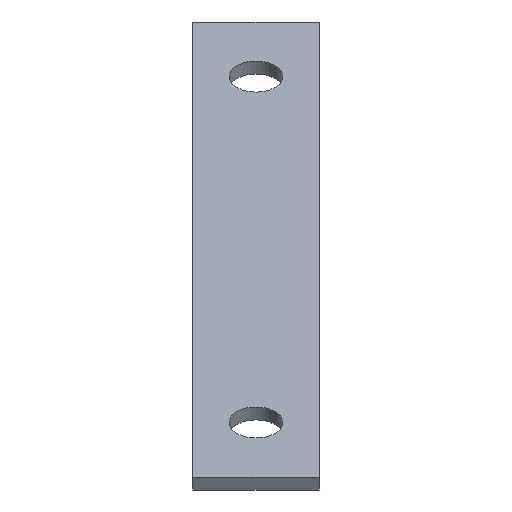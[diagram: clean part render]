
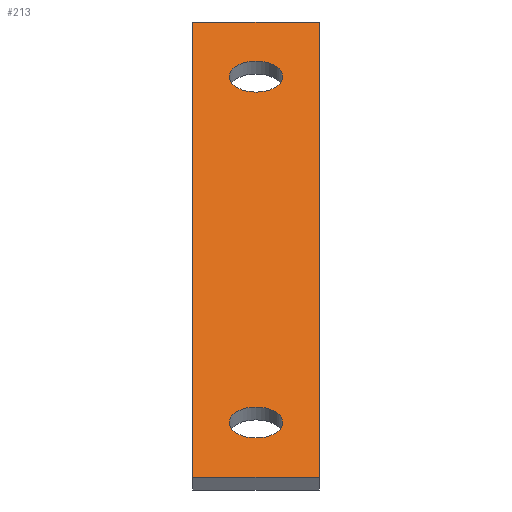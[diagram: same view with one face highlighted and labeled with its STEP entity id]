
A CAD part, isometric view. The second image highlights one B-rep face of the part: STEP entity #213.
In plain terms, the highlighted planar face has unit normal (0, 0, 1).
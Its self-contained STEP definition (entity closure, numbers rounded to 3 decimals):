
#24 = VERTEX_POINT('',#25);
#25 = CARTESIAN_POINT('',(75.151,44.494,201.));
#32 = PLANE('',#33);
#33 = AXIS2_PLACEMENT_3D('',#34,#35,#36);
#34 = CARTESIAN_POINT('',(75.151,44.494,200.));
#35 = DIRECTION('',(0.707,0.707,0.));
#36 = DIRECTION('',(0.,0.,1.));
#44 = PLANE('',#45);
#45 = AXIS2_PLACEMENT_3D('',#46,#47,#48);
#46 = CARTESIAN_POINT('',(75.151,44.494,200.));
#47 = DIRECTION('',(-0.707,0.707,0.));
#48 = DIRECTION('',(0.,0.,1.));
#85 = VERTEX_POINT('',#86);
#86 = CARTESIAN_POINT('',(69.494,50.151,201.));
#100 = PLANE('',#101);
#101 = AXIS2_PLACEMENT_3D('',#102,#103,#104);
#102 = CARTESIAN_POINT('',(69.494,50.151,200.));
#103 = DIRECTION('',(-0.707,0.707,0.));
#104 = DIRECTION('',(0.,0.,1.));
#112 = EDGE_CURVE('',#24,#85,#113,.T.);
#113 = SURFACE_CURVE('',#114,(#118,#125),.PCURVE_S1.);
#114 = LINE('',#115,#116);
#115 = CARTESIAN_POINT('',(75.151,44.494,201.));
#116 = VECTOR('',#117,1.);
#117 = DIRECTION('',(-0.707,0.707,0.));
#118 = PCURVE('',#32,#119);
#119 = DEFINITIONAL_REPRESENTATION('',(#120),#124);
#120 = LINE('',#121,#122);
#121 = CARTESIAN_POINT('',(1.,0.));
#122 = VECTOR('',#123,1.);
#123 = DIRECTION('',(0.,-1.));
#124 = ( GEOMETRIC_REPRESENTATION_CONTEXT(2) 
PARAMETRIC_REPRESENTATION_CONTEXT() REPRESENTATION_CONTEXT('2D SPACE',''
  ) );
#125 = PCURVE('',#126,#131);
#126 = PLANE('',#127);
#127 = AXIS2_PLACEMENT_3D('',#128,#129,#130);
#128 = CARTESIAN_POINT('',(75.151,44.494,201.));
#129 = DIRECTION('',(0.,0.,1.));
#130 = DIRECTION('',(0.707,0.707,0.));
#131 = DEFINITIONAL_REPRESENTATION('',(#132),#136);
#132 = LINE('',#133,#134);
#133 = CARTESIAN_POINT('',(0.,0.));
#134 = VECTOR('',#135,1.);
#135 = DIRECTION('',(0.,1.));
#136 = ( GEOMETRIC_REPRESENTATION_CONTEXT(2) 
PARAMETRIC_REPRESENTATION_CONTEXT() REPRESENTATION_CONTEXT('2D SPACE',''
  ) );
#165 = EDGE_CURVE('',#24,#166,#168,.T.);
#166 = VERTEX_POINT('',#167);
#167 = CARTESIAN_POINT('',(110.506,79.849,201.));
#168 = SURFACE_CURVE('',#169,(#173,#180),.PCURVE_S1.);
#169 = LINE('',#170,#171);
#170 = CARTESIAN_POINT('',(75.151,44.494,201.));
#171 = VECTOR('',#172,1.);
#172 = DIRECTION('',(0.707,0.707,0.));
#173 = PCURVE('',#44,#174);
#174 = DEFINITIONAL_REPRESENTATION('',(#175),#179);
#175 = LINE('',#176,#177);
#176 = CARTESIAN_POINT('',(1.,0.));
#177 = VECTOR('',#178,1.);
#178 = DIRECTION('',(0.,1.));
#179 = ( GEOMETRIC_REPRESENTATION_CONTEXT(2) 
PARAMETRIC_REPRESENTATION_CONTEXT() REPRESENTATION_CONTEXT('2D SPACE',''
  ) );
#180 = PCURVE('',#126,#181);
#181 = DEFINITIONAL_REPRESENTATION('',(#182),#186);
#182 = LINE('',#183,#184);
#183 = CARTESIAN_POINT('',(0.,0.));
#184 = VECTOR('',#185,1.);
#185 = DIRECTION('',(1.,0.));
#186 = ( GEOMETRIC_REPRESENTATION_CONTEXT(2) 
PARAMETRIC_REPRESENTATION_CONTEXT() REPRESENTATION_CONTEXT('2D SPACE',''
  ) );
#202 = PLANE('',#203);
#203 = AXIS2_PLACEMENT_3D('',#204,#205,#206);
#204 = CARTESIAN_POINT('',(110.506,79.849,200.));
#205 = DIRECTION('',(0.707,0.707,0.));
#206 = DIRECTION('',(0.,0.,1.));
#213 = ADVANCED_FACE('',(#214,#262,#293),#126,.T.);
#214 = FACE_BOUND('',#215,.T.);
#215 = EDGE_LOOP('',(#216,#217,#218,#241));
#216 = ORIENTED_EDGE('',*,*,#112,.F.);
#217 = ORIENTED_EDGE('',*,*,#165,.T.);
#218 = ORIENTED_EDGE('',*,*,#219,.T.);
#219 = EDGE_CURVE('',#166,#220,#222,.T.);
#220 = VERTEX_POINT('',#221);
#221 = CARTESIAN_POINT('',(104.849,85.506,201.));
#222 = SURFACE_CURVE('',#223,(#227,#234),.PCURVE_S1.);
#223 = LINE('',#224,#225);
#224 = CARTESIAN_POINT('',(110.506,79.849,201.));
#225 = VECTOR('',#226,1.);
#226 = DIRECTION('',(-0.707,0.707,0.));
#227 = PCURVE('',#126,#228);
#228 = DEFINITIONAL_REPRESENTATION('',(#229),#233);
#229 = LINE('',#230,#231);
#230 = CARTESIAN_POINT('',(50.,0.));
#231 = VECTOR('',#232,1.);
#232 = DIRECTION('',(0.,1.));
#233 = ( GEOMETRIC_REPRESENTATION_CONTEXT(2) 
PARAMETRIC_REPRESENTATION_CONTEXT() REPRESENTATION_CONTEXT('2D SPACE',''
  ) );
#234 = PCURVE('',#202,#235);
#235 = DEFINITIONAL_REPRESENTATION('',(#236),#240);
#236 = LINE('',#237,#238);
#237 = CARTESIAN_POINT('',(1.,0.));
#238 = VECTOR('',#239,1.);
#239 = DIRECTION('',(0.,-1.));
#240 = ( GEOMETRIC_REPRESENTATION_CONTEXT(2) 
PARAMETRIC_REPRESENTATION_CONTEXT() REPRESENTATION_CONTEXT('2D SPACE',''
  ) );
#241 = ORIENTED_EDGE('',*,*,#242,.F.);
#242 = EDGE_CURVE('',#85,#220,#243,.T.);
#243 = SURFACE_CURVE('',#244,(#248,#255),.PCURVE_S1.);
#244 = LINE('',#245,#246);
#245 = CARTESIAN_POINT('',(69.494,50.151,201.));
#246 = VECTOR('',#247,1.);
#247 = DIRECTION('',(0.707,0.707,0.));
#248 = PCURVE('',#126,#249);
#249 = DEFINITIONAL_REPRESENTATION('',(#250),#254);
#250 = LINE('',#251,#252);
#251 = CARTESIAN_POINT('',(0.,8.));
#252 = VECTOR('',#253,1.);
#253 = DIRECTION('',(1.,0.));
#254 = ( GEOMETRIC_REPRESENTATION_CONTEXT(2) 
PARAMETRIC_REPRESENTATION_CONTEXT() REPRESENTATION_CONTEXT('2D SPACE',''
  ) );
#255 = PCURVE('',#100,#256);
#256 = DEFINITIONAL_REPRESENTATION('',(#257),#261);
#257 = LINE('',#258,#259);
#258 = CARTESIAN_POINT('',(1.,0.));
#259 = VECTOR('',#260,1.);
#260 = DIRECTION('',(0.,1.));
#261 = ( GEOMETRIC_REPRESENTATION_CONTEXT(2) 
PARAMETRIC_REPRESENTATION_CONTEXT() REPRESENTATION_CONTEXT('2D SPACE',''
  ) );
#262 = FACE_BOUND('',#263,.T.);
#263 = EDGE_LOOP('',(#264));
#264 = ORIENTED_EDGE('',*,*,#265,.F.);
#265 = EDGE_CURVE('',#266,#266,#268,.T.);
#266 = VERTEX_POINT('',#267);
#267 = CARTESIAN_POINT('',(77.767,52.767,201.));
#268 = SURFACE_CURVE('',#269,(#274,#281),.PCURVE_S1.);
#269 = CIRCLE('',#270,1.7);
#270 = AXIS2_PLACEMENT_3D('',#271,#272,#273);
#271 = CARTESIAN_POINT('',(76.565,51.565,201.));
#272 = DIRECTION('',(0.,-0.,1.));
#273 = DIRECTION('',(0.707,0.707,0.));
#274 = PCURVE('',#126,#275);
#275 = DEFINITIONAL_REPRESENTATION('',(#276),#280);
#276 = CIRCLE('',#277,1.7);
#277 = AXIS2_PLACEMENT_2D('',#278,#279);
#278 = CARTESIAN_POINT('',(6.,4.));
#279 = DIRECTION('',(1.,0.));
#280 = ( GEOMETRIC_REPRESENTATION_CONTEXT(2) 
PARAMETRIC_REPRESENTATION_CONTEXT() REPRESENTATION_CONTEXT('2D SPACE',''
  ) );
#281 = PCURVE('',#282,#287);
#282 = CYLINDRICAL_SURFACE('',#283,1.7);
#283 = AXIS2_PLACEMENT_3D('',#284,#285,#286);
#284 = CARTESIAN_POINT('',(76.565,51.565,199.));
#285 = DIRECTION('',(0.,0.,1.));
#286 = DIRECTION('',(0.707,0.707,0.));
#287 = DEFINITIONAL_REPRESENTATION('',(#288),#292);
#288 = LINE('',#289,#290);
#289 = CARTESIAN_POINT('',(0.,2.));
#290 = VECTOR('',#291,1.);
#291 = DIRECTION('',(1.,0.));
#292 = ( GEOMETRIC_REPRESENTATION_CONTEXT(2) 
PARAMETRIC_REPRESENTATION_CONTEXT() REPRESENTATION_CONTEXT('2D SPACE',''
  ) );
#293 = FACE_BOUND('',#294,.T.);
#294 = EDGE_LOOP('',(#295));
#295 = ORIENTED_EDGE('',*,*,#296,.F.);
#296 = EDGE_CURVE('',#297,#297,#299,.T.);
#297 = VERTEX_POINT('',#298);
#298 = CARTESIAN_POINT('',(104.637,79.637,201.));
#299 = SURFACE_CURVE('',#300,(#305,#312),.PCURVE_S1.);
#300 = CIRCLE('',#301,1.7);
#301 = AXIS2_PLACEMENT_3D('',#302,#303,#304);
#302 = CARTESIAN_POINT('',(103.435,78.435,201.));
#303 = DIRECTION('',(0.,-0.,1.));
#304 = DIRECTION('',(0.707,0.707,0.));
#305 = PCURVE('',#126,#306);
#306 = DEFINITIONAL_REPRESENTATION('',(#307),#311);
#307 = CIRCLE('',#308,1.7);
#308 = AXIS2_PLACEMENT_2D('',#309,#310);
#309 = CARTESIAN_POINT('',(44.,4.));
#310 = DIRECTION('',(1.,0.));
#311 = ( GEOMETRIC_REPRESENTATION_CONTEXT(2) 
PARAMETRIC_REPRESENTATION_CONTEXT() REPRESENTATION_CONTEXT('2D SPACE',''
  ) );
#312 = PCURVE('',#313,#318);
#313 = CYLINDRICAL_SURFACE('',#314,1.7);
#314 = AXIS2_PLACEMENT_3D('',#315,#316,#317);
#315 = CARTESIAN_POINT('',(103.435,78.435,199.));
#316 = DIRECTION('',(0.,0.,1.));
#317 = DIRECTION('',(0.707,0.707,0.));
#318 = DEFINITIONAL_REPRESENTATION('',(#319),#323);
#319 = LINE('',#320,#321);
#320 = CARTESIAN_POINT('',(0.,2.));
#321 = VECTOR('',#322,1.);
#322 = DIRECTION('',(1.,0.));
#323 = ( GEOMETRIC_REPRESENTATION_CONTEXT(2) 
PARAMETRIC_REPRESENTATION_CONTEXT() REPRESENTATION_CONTEXT('2D SPACE',''
  ) );
